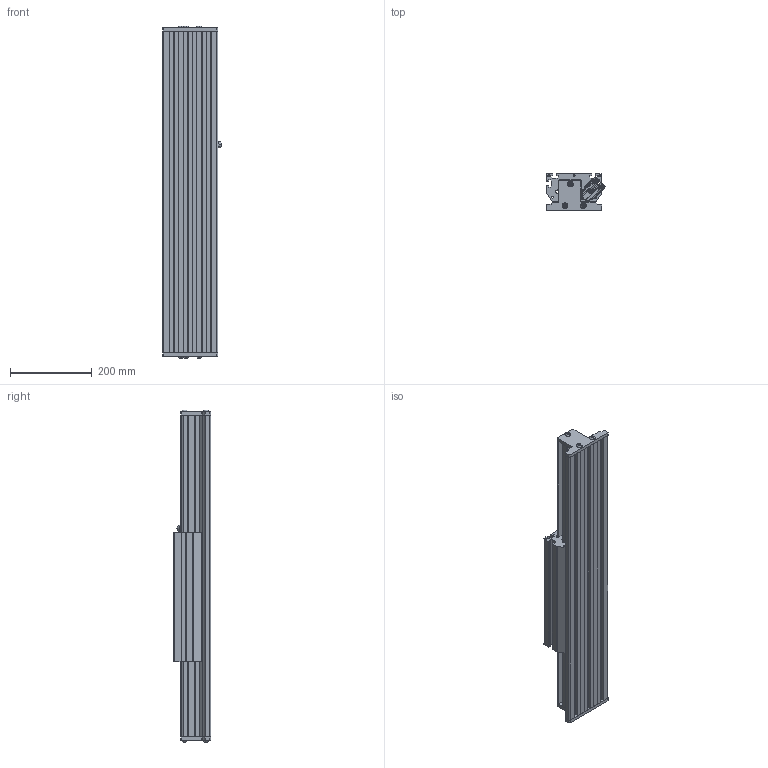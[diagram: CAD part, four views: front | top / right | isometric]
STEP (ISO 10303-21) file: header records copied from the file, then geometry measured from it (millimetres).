
FILE_DESCRIPTION (( 'STEP AP214' ), '1' );
FILE_NAME ('SINADRIVES Linear motor stage MLL20400XS-XX-1-0-ST-00-00804.STEP', '2015-07-06T10:54:32', ( 'Tecnico' ), ( '' ), 'SwSTEP 2.0', 'SolidWorks 2009', '' );
FILE_SCHEMA (( 'AUTOMOTIVE_DESIGN' ));
Length unit declared in the file: millimetre
Products named in the file (7): SINADRIVES PROFILE MLL2XXXX-0788; SINADRIVES CARRIAGE MLL20400XS-1; CARRIAGE MLL20400; Connector power+signal Y-tec 45; SINADRIVES ENDBLOCK MLL2; SINADRIVES ENDBLOCK MLL2-2; SINADRIVES Linear motor stage MLL20400XS-XX-1-0-ST-00-00804
Assembly tree (6 placements, depth 3):
  SINADRIVES Linear motor stage MLL20400XS-XX-1-0-ST-00-00804
    SINADRIVES PROFILE MLL2XXXX-0788
    SINADRIVES CARRIAGE MLL20400XS-1
      Connector power+signal Y-tec 45
      CARRIAGE MLL20400
    SINADRIVES ENDBLOCK MLL2-2
    SINADRIVES ENDBLOCK MLL2
Bounding box: 144.43 x 91 x 812.8 mm (x, y, z)
Volume: 4928349.1 mm3; surface area: 852955.1 mm2
Topology: 2 solids, 42 shells, 950 faces, 2640 edges, 1730 vertices
Faces by surface type: plane 445, cylinder 302, bspline 79, cone 70, torus 42, sphere 12
Entity records: 40587 total; most frequent: CARTESIAN_POINT 8656, ORIENTED_EDGE 5024, DIRECTION 4947, EDGE_CURVE 2622, AXIS2_PLACEMENT_3D 1781, VERTEX_POINT 1730, LINE 1385, VECTOR 1385
